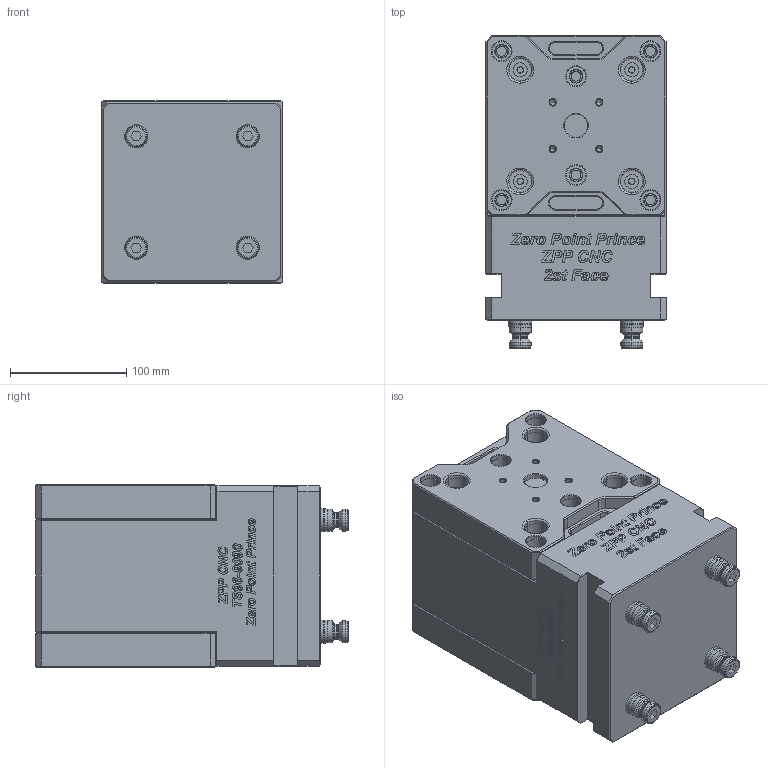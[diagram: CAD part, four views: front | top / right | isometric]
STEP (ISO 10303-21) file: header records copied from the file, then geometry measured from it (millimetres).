
FILE_DESCRIPTION((''),'2;1');
FILE_NAME('TS96-9090_N_ASM','2025-04-20T09:57:20',('XF'),(''),'CREO PARAMETRIC BY PTC INC, 2023073','CREO PARAMETRIC BY PTC INC, 2023073','');
FILE_SCHEMA(('CONFIG_CONTROL_DESIGN'));
Products named in the file (4): TS96-9090; TS96-155; PS20F; TS96-9090_N_ASM
Assembly tree (7 placements, depth 2):
  TS96-9090_N_ASM
    TS96-9090
    TS96-155  x2
    PS20F  x4
Bounding box: 155.2 x 269 x 157 mm (x, y, z)
Volume: 5625109.7 mm3; surface area: 377005.4 mm2
Topology: 131 solids, 139 shells, 4447 faces, 11937 edges, 7890 vertices
Faces by surface type: extrusion 2180, plane 1593, cylinder 318, cone 236, torus 112, bspline 8
Entity records: 113223 total; most frequent: CARTESIAN_POINT 34309, ORIENTED_EDGE 18254, DIRECTION 11155, EDGE_CURVE 9135, VECTOR 6649, VERTEX_POINT 6070, B_SPLINE_CURVE_WITH_KNOTS 5474, LINE 4831
